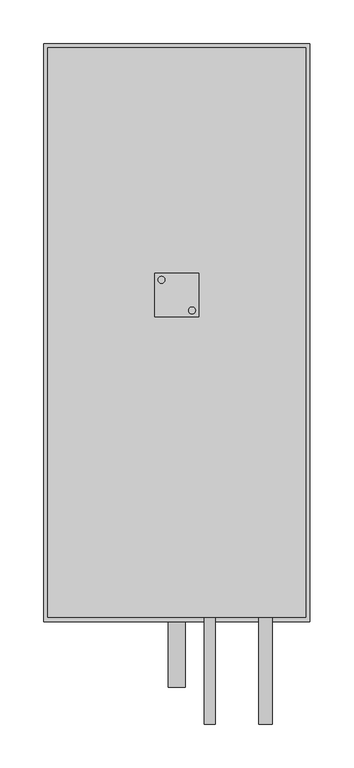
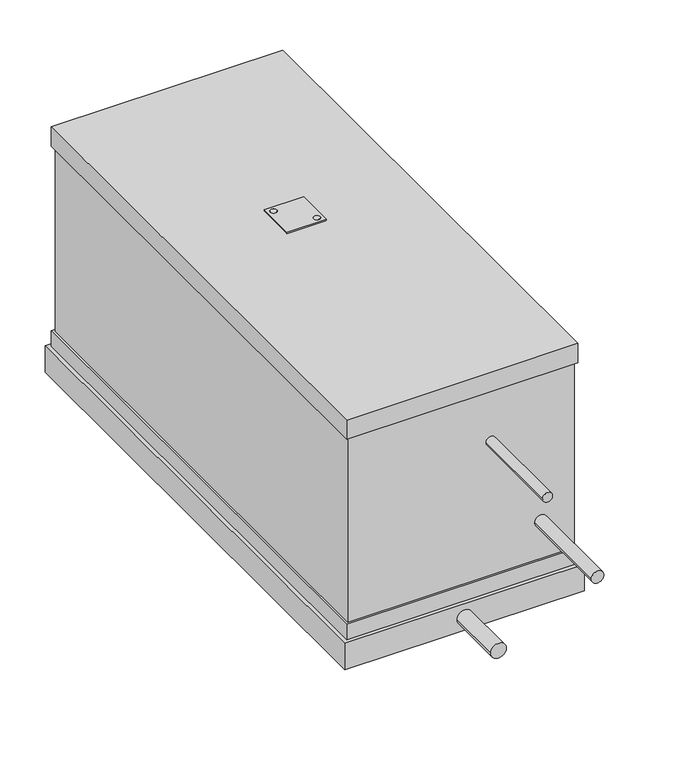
"""IFC4 building model written with IfcOpenShell, lengths in millimetres: proxy geometry, KORF_Воздухоохладитель_Фреоновый_FLO_Левый : FLO 50-25."""

from ifc_helpers import new_model, si_unit, point, frame, frame_2d, origin, place, context, project, spatial, polyline, circle_curve, trimmed, segment, composite_curve, outline, extrude, faceted_brep, source, transform, mapped, element, save


def mechanical_equipment_9d130766(model_context):
    return source(origin(), model_context, "Body", "SolidModel", [
        extrude(outline(composite_curve([segment(trimmed(circle_curve(frame_2d((170.5727066, -17.5745746)), 4.0), [point((174.5727066, -17.5745746))], [point((166.5727066, -17.5745746))], False, "CARTESIAN"), True, "CONTINUOUS"), segment(trimmed(circle_curve(frame_2d((170.5727066, -17.5745746)), 4.0), [point((166.5727066, -17.5745746))], [point((174.5727066, -17.5745746))], False, "CARTESIAN"), True, "CONTINUOUS")], self_intersect=False)), frame((0.0, 0.0, 151.0), z_axis=(0.0, 0.0, 1.0), x_axis=(1.0, 0.0, 0.0)), (0.0, 0.0, 1.0), 2.0),
        extrude(outline(composite_curve([segment(trimmed(circle_curve(frame_2d((135.4272934, 17.5745746)), 4.0), [point((131.4272934, 17.5745746))], [point((139.4272934, 17.5745746))], False, "CARTESIAN"), True, "CONTINUOUS"), segment(trimmed(circle_curve(frame_2d((135.4272934, 17.5745746)), 4.0), [point((139.4272934, 17.5745746))], [point((131.4272934, 17.5745746))], False, "CARTESIAN"), True, "CONTINUOUS")], self_intersect=False)), frame((0.0, 0.0, 151.0), z_axis=(0.0, 0.0, 1.0), x_axis=(1.0, 0.0, 0.0)), (0.0, 0.0, 1.0), 2.0),
        extrude(outline(polyline([(128.0, -25.0), (128.0, 25.0), (178.0, 25.0), (178.0, -25.0), (128.0, -25.0)]), holes=[composite_curve([segment(trimmed(circle_curve(frame_2d((170.5727066, -17.5745746)), 4.0), [point((174.5727066, -17.5745746))], [point((166.5727066, -17.5745746))], True, "CARTESIAN"), True, "CONTINUOUS"), segment(trimmed(circle_curve(frame_2d((170.5727066, -17.5745746)), 4.0), [point((166.5727066, -17.5745746))], [point((174.5727066, -17.5745746))], True, "CARTESIAN"), True, "CONTINUOUS")], self_intersect=False), composite_curve([segment(trimmed(circle_curve(frame_2d((135.4272934, 17.5745746)), 4.0), [point((131.4272934, 17.5745746))], [point((139.4272934, 17.5745746))], True, "CARTESIAN"), True, "CONTINUOUS"), segment(trimmed(circle_curve(frame_2d((135.4272934, 17.5745746)), 4.0), [point((139.4272934, 17.5745746))], [point((131.4272934, 17.5745746))], True, "CARTESIAN"), True, "CONTINUOUS")], self_intersect=False)]), frame((0.0, 0.0, 151.0), z_axis=(0.0, 0.0, 1.0), x_axis=(1.0, 0.0, 0.0)), (0.0, 0.0, 1.0), 2.0),
        faceted_brep([(306.0, -375.0, -146.0), (306.0, -375.0, -182.0), (306.0, 289.0, -182.0), (306.0, 289.0, -146.0), (0.0, -375.0, -146.0), (0.0, 289.0, -146.0), (0.0, 289.0, -182.0), (0.0, -375.0, -182.0), (301.0, 284.0, -146.0), (301.0, -370.0, -146.0), (5.0, -370.0, -146.0), (5.0, 284.0, -146.0), (298.0, -367.0, 125.0), (298.0, -367.0, -125.0), (298.0, -250.0, -125.0), (298.0, 250.0, -125.0), (298.0, 281.0, -125.0), (298.0, 281.0, 125.0), (298.0, 250.0, 125.0), (298.0, -250.0, 125.0), (8.0, 281.0, 125.0), (8.0, 281.0, -125.0), (8.0, 250.0, -125.0), (8.0, -250.0, -125.0), (8.0, -367.0, -125.0), (8.0, -367.0, 125.0), (8.0, -250.0, 125.0), (8.0, 250.0, 125.0), (301.0, -370.0, 125.0), (301.0, 284.0, 125.0), (301.0, 284.0, 151.0), (301.0, -370.0, 151.0), (301.0, -370.0, -125.0), (301.0, 284.0, -125.0), (5.0, -370.0, 125.0), (5.0, -370.0, 151.0), (5.0, 284.0, 151.0), (5.0, 284.0, 125.0), (5.0, -370.0, -125.0), (5.0, 284.0, -125.0)], [[[0, 1, 2, 3]], [[4, 5, 6, 7]], [[1, 0, 4, 7]], [[2, 1, 7, 6]], [[3, 2, 6, 5]], [[0, 3, 5, 4], [8, 9, 10, 11]], [[12, 13, 14, 15, 16, 17, 18, 19]], [[20, 21, 22, 23, 24, 25, 26, 27]], [[13, 12, 25, 24]], [[17, 16, 21, 20]], [[28, 29, 30, 31]], [[32, 9, 8, 33]], [[34, 35, 36, 37]], [[38, 39, 11, 10]], [[29, 28, 34, 37], [12, 19, 18, 17, 20, 27, 26, 25]], [[30, 29, 37, 36]], [[31, 30, 36, 35]], [[28, 31, 35, 34]], [[9, 32, 38, 10]], [[33, 8, 11, 39]], [[32, 33, 39, 38], [14, 13, 24, 23, 22, 21, 16, 15]]]),
        extrude(outline(composite_curve([segment(trimmed(circle_curve(frame_2d((-74.0, 255.0)), 7.94), [point((-74.0, 247.06))], [point((-74.0, 262.94))], False, "CARTESIAN"), True, "CONTINUOUS"), segment(trimmed(circle_curve(frame_2d((-74.0, 255.0)), 7.94), [point((-74.0, 262.94))], [point((-74.0, 247.06))], False, "CARTESIAN"), True, "CONTINUOUS")], self_intersect=False)), frame((0.0, -493.0, 0.0), z_axis=(0.0, 1.0, 0.0), x_axis=(0.0, 0.0, 1.0)), (0.0, 0.0, 1.0), 126.0),
        extrude(outline(composite_curve([segment(trimmed(circle_curve(frame_2d((56.0, 191.0)), 6.35), [point((56.0, 184.65))], [point((56.0, 197.35))], False, "CARTESIAN"), True, "CONTINUOUS"), segment(trimmed(circle_curve(frame_2d((56.0, 191.0)), 6.35), [point((56.0, 197.35))], [point((56.0, 184.65))], False, "CARTESIAN"), True, "CONTINUOUS")], self_intersect=False)), frame((0.0, -493.0, 0.0), z_axis=(0.0, 1.0, 0.0), x_axis=(0.0, 0.0, 1.0)), (0.0, 0.0, 1.0), 126.0),
        extrude(outline(composite_curve([segment(trimmed(circle_curve(frame_2d((-164.0, 153.0)), 10.0), [point((-164.0, 143.0))], [point((-164.0, 163.0))], False, "CARTESIAN"), True, "CONTINUOUS"), segment(trimmed(circle_curve(frame_2d((-164.0, 153.0)), 10.0), [point((-164.0, 163.0))], [point((-164.0, 143.0))], False, "CARTESIAN"), True, "CONTINUOUS")], self_intersect=False)), frame((0.0, -450.0, 0.0), z_axis=(0.0, 1.0, 0.0), x_axis=(0.0, 0.0, 1.0)), (0.0, 0.0, 1.0), 75.0),
    ])


if __name__ == "__main__":
    model = new_model("IFC4")
    model_context = context("Model", 3, world=origin())
    ifc_project = project(units=[si_unit("LENGTHUNIT", "METRE", prefix="MILLI")], contexts=[model_context])
    site = spatial("IfcSite", under=ifc_project)
    building = spatial("IfcBuilding", under=site)
    placement = place(None, origin())
    mechanical_equipment_shape = mechanical_equipment_9d130766(model_context)
    element("IfcBuildingElementProxy", 1, Name="KORF_Воздухоохладитель_Фреоновый_FLO_Левый : FLO 50-25", ObjectType="KORF_Воздухоохладитель_Фреоновый_FLO_Левый : FLO 50-25", at=placement, inside=building, context=model_context, shape_type="MappedRepresentation", body=[
        mapped(mechanical_equipment_shape, transform((0.0, 0.0, 0.0), x_axis=(1.0, 0.0, 0.0), y_axis=(0.0, 1.0, 0.0), z_axis=(0.0, 0.0, 1.0))),
    ])
    save(model, "model.ifc")
